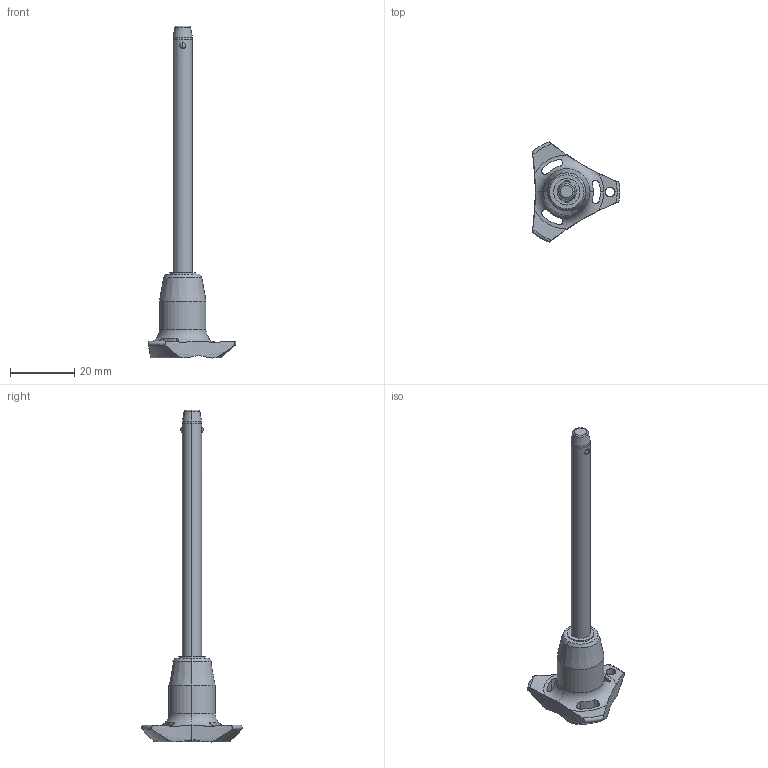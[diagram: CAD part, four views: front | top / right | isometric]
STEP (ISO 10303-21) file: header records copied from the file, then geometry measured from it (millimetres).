
FILE_DESCRIPTION (( 'STEP AP203' ), '1' );
FILE_NAME ('QR1736.M06-070-T.step', '2025-11-13T11:46:57', ( '' ), ( '' ), 'SwSTEP 2.0', 'SolidWorks 2019', '' );
FILE_SCHEMA (( 'CONFIG_CONTROL_DESIGN' ));
Length unit declared in the file: millimetre
Products named in the file (1): QR1736.M06-070-T
Bounding box: 27.4 x 31.31 x 103.7 mm (x, y, z)
Volume: 6945.1 mm3; surface area: 3872.4 mm2
Topology: 1 solids, 1 shells, 69 faces, 187 edges, 119 vertices
Faces by surface type: cylinder 32, cone 14, torus 12, sphere 6, plane 5
Entity records: 2789 total; most frequent: CARTESIAN_POINT 1010, ORIENTED_EDGE 374, DIRECTION 348, EDGE_CURVE 187, AXIS2_PLACEMENT_3D 155, VERTEX_POINT 119, CIRCLE 85, EDGE_LOOP 76
